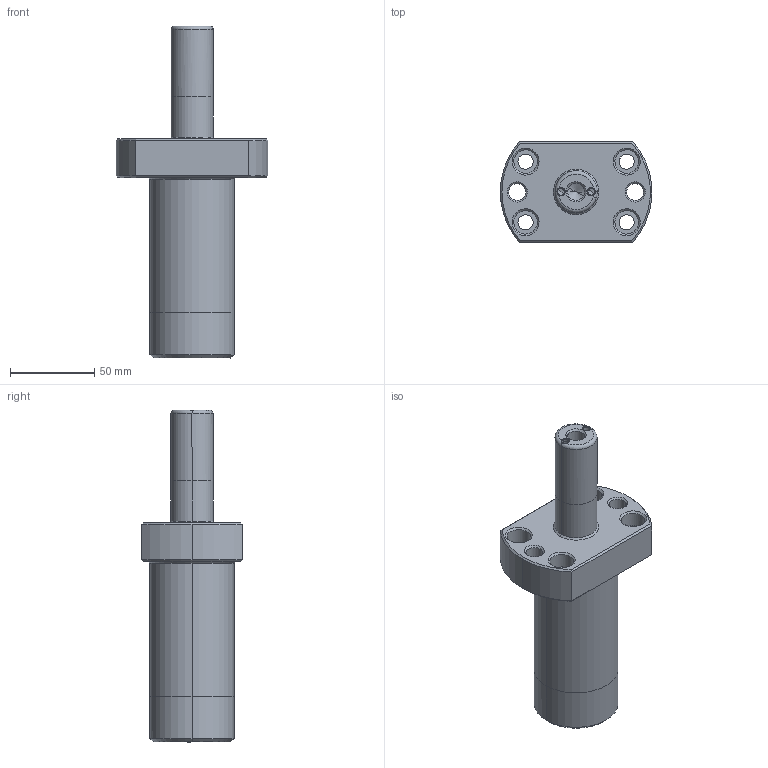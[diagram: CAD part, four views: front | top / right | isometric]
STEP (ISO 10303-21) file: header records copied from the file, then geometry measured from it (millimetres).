
FILE_DESCRIPTION(('CATIA V5 STEP Exchange'),'2;1');
FILE_NAME('W:\CATALOGO GENERAL 2018\FICHEROS CAD\020-TPSL\TPSL\TPSL 250x50.stp','2017-11-28T16:28:32+00:00',('none'),('none'),'CATIA Version 5 Release 17 (IN-10)','CATIA V5 STEP AP203','none');
FILE_SCHEMA(('CONFIG_CONTROL_DESIGN'));
Length unit declared in the file: millimetre
Products named in the file (1): TPSL 250x50
Bounding box: 89.85 x 60 x 197 mm (x, y, z)
Volume: 341216.3 mm3; surface area: 41953.8 mm2
Topology: 1 solids, 1 shells, 105 faces, 239 edges, 137 vertices
Faces by surface type: cone 49, cylinder 39, plane 14, torus 3
Entity records: 3290 total; most frequent: CARTESIAN_POINT 1031, ORIENTED_EDGE 466, DIRECTION 394, EDGE_CURVE 233, AXIS2_PLACEMENT_3D 199, VERTEX_POINT 137, EDGE_LOOP 124, ADVANCED_FACE 105
